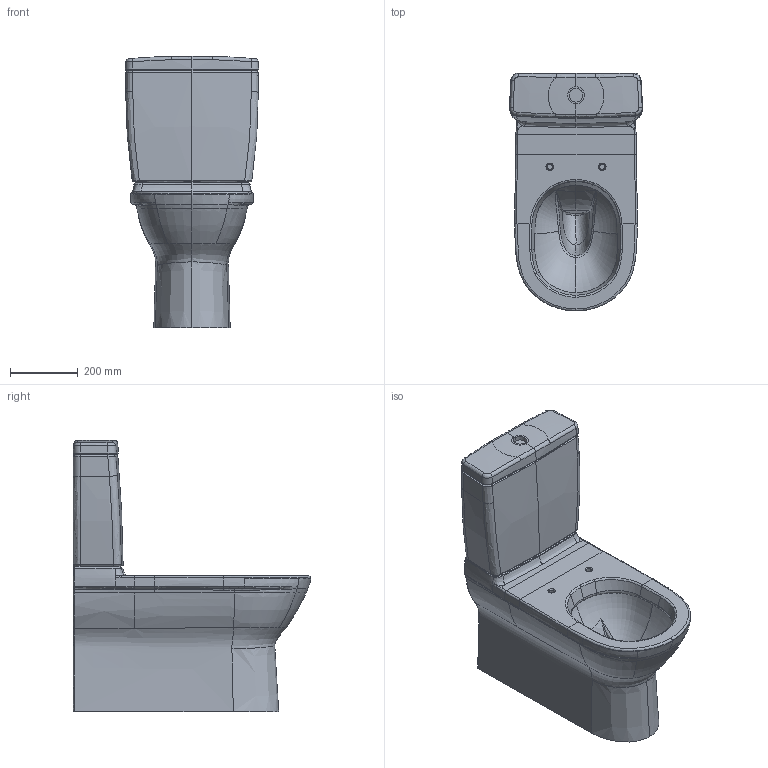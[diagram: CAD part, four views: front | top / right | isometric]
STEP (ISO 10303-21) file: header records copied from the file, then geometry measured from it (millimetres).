
FILE_DESCRIPTION(/* description */ (''),/* implementation_level */ '2;1');
FILE_NAME(/* name */ '564810_ONovo_BTW_CC_12Inch.stp',/* time_stamp */ '2019-03-06T10:54:31+01:00',/* author */ (''),/* organization */ (''),/* preprocessor_version */ 'ST-DEVELOPER v16',/* originating_system */ 'SIEMENS PLM Software NX 10.0',/* authorisation */ '');
FILE_SCHEMA (('AUTOMOTIVE_DESIGN { 1 0 10303 214 3 1 1 1 }'));
Products named in the file (1): Sier110CA651xnrz
Bounding box: 392.66 x 700.48 x 799.9 mm (x, y, z)
Volume: 66907669.9 mm3; surface area: 1678745.1 mm2
Topology: 1 solids, 1 shells, 415 faces, 1060 edges, 633 vertices
Faces by surface type: bspline 322, plane 45, cylinder 34, sphere 8, extrusion 6
Entity records: 51340 total; most frequent: CARTESIAN_POINT 44364, ORIENTED_EDGE 2068, EDGE_CURVE 1034, B_SPLINE_CURVE_WITH_KNOTS 773, VERTEX_POINT 629, DIRECTION 460, EDGE_LOOP 423, ADVANCED_FACE 415
